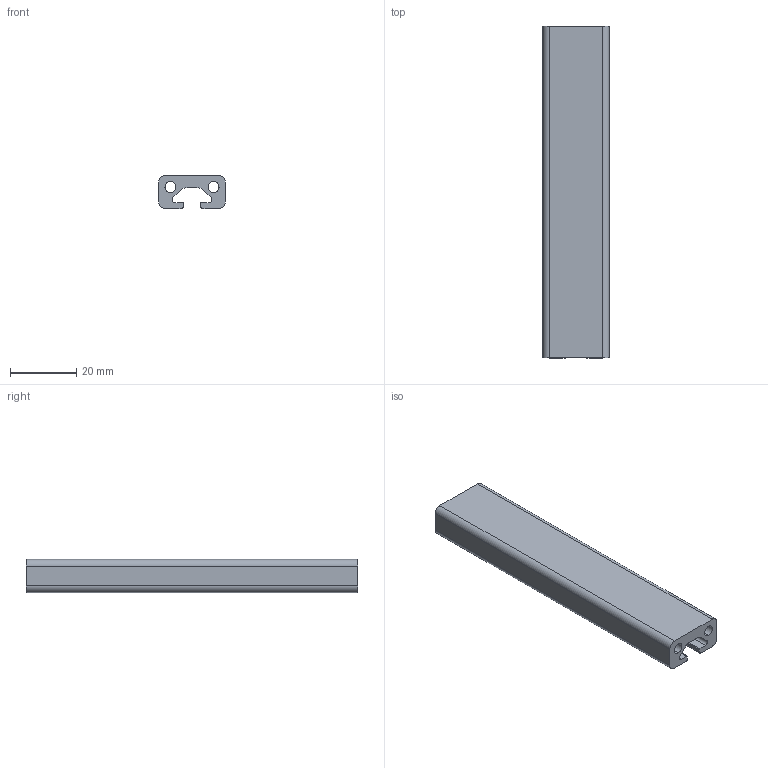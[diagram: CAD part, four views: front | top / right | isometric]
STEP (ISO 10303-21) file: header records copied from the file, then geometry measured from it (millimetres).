
FILE_DESCRIPTION (( 'STEP AP203' ), '1' );
FILE_NAME ('0105P2010.STEP', '2024-02-27T13:13:30', ( 'Windows-Benutzer' ), ( '' ), 'SwSTEP 2.0', 'SolidWorks 2023', '' );
FILE_SCHEMA (( 'CONFIG_CONTROL_DESIGN' ));
Length unit declared in the file: millimetre
Products named in the file (1): 0105P2010
Bounding box: 20 x 100 x 10 mm (x, y, z)
Volume: 12755.6 mm3; surface area: 10065.5 mm2
Topology: 1 solids, 1 shells, 30 faces, 84 edges, 56 vertices
Faces by surface type: cylinder 16, plane 14
Entity records: 1065 total; most frequent: DIRECTION 178, CARTESIAN_POINT 171, ORIENTED_EDGE 168, EDGE_CURVE 84, AXIS2_PLACEMENT_3D 63, VERTEX_POINT 56, LINE 52, VECTOR 52
